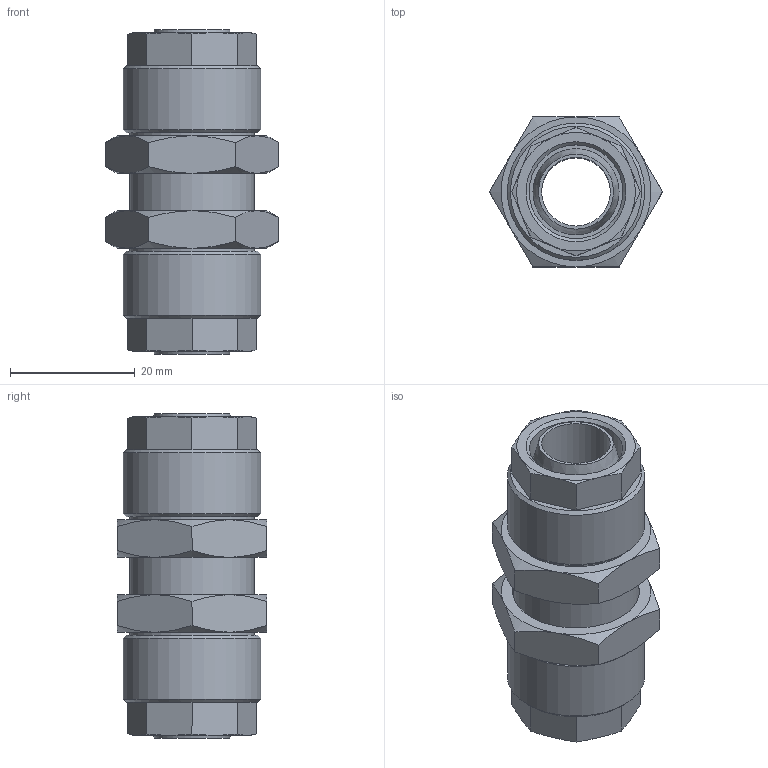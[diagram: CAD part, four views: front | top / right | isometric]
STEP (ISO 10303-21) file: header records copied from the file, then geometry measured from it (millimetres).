
FILE_DESCRIPTION(/* description */ (''),/* implementation_level */ '2;1');
FILE_NAME(/* name */ '10511_304_1512,5_17.07.17',/* time_stamp */ '2017-07-17T14:48:30+02:00',/* author */ (''),/* organization */ (''),/* preprocessor_version */ 'ST-DEVELOPER v16.5',/* originating_system */ 'HiCAD 2016 2102.2 Build 618',/* authorisation */ '');
FILE_SCHEMA (('AUTOMOTIVE_DESIGN { 1 0 10303 214 1 1 1 1 }'));
Length unit declared in the file: millimetre
Products named in the file (6): Root; R10511; 17009; Kontermutter
Assembly tree (5 placements, depth 2):
  Root
    R10511
    17009
    17009
    Kontermutter
    Kontermutter
Bounding box: 27.71 x 24 x 52 mm (x, y, z)
Volume: 14311.6 mm3; surface area: 11925.3 mm2
Topology: 5 solids, 5 shells, 116 faces, 254 edges, 154 vertices
Faces by surface type: cone 58, plane 44, cylinder 12, torus 2
Full cylindrical faces by diameter (mm): 11 x1, 13.1 x2, 15 x2, 18.733 x4, 20 x1, 22 x2
Entity records: 5156 total; most frequent: DIRECTION 624, CARTESIAN_POINT 474, PRESENTATION_STYLE_ASSIGNMENT 421, COLOUR_RGB 417, DRAUGHTING_PRE_DEFINED_CURVE_FONT 416, CURVE_STYLE 416, OVER_RIDING_STYLED_ITEM 416, ORIENTED_EDGE 416
